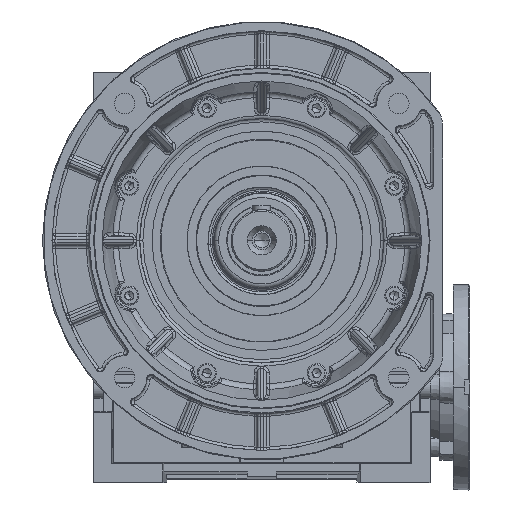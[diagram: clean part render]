
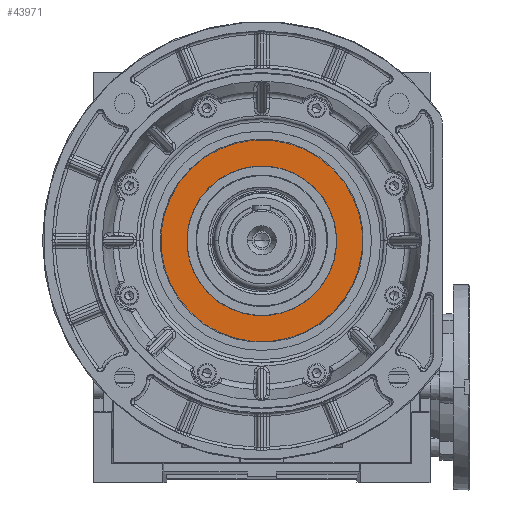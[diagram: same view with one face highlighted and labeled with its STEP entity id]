
A CAD part, top view. The second image highlights one B-rep face of the part: STEP entity #43971.
In plain terms, the highlighted planar face has unit normal (0, 0, 1).
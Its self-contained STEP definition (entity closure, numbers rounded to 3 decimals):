
#2464 = EDGE_CURVE ( 'NONE', #49381, #90740, #29130, .T. ) ;
#3754 = AXIS2_PLACEMENT_3D ( 'NONE', #36246, #16093, #80477 ) ;
#4025 = DIRECTION ( 'NONE',  ( 0., 0., -1. ) ) ;
#4096 = ORIENTED_EDGE ( 'NONE', *, *, #5063, .T. ) ;
#4497 = DIRECTION ( 'NONE',  ( -0.707, -0.707, 0. ) ) ;
#5063 = EDGE_CURVE ( 'NONE', #90740, #49381, #19131, .T. ) ;
#7364 = EDGE_LOOP ( 'NONE', ( #4096, #58354 ) ) ;
#7693 = DIRECTION ( 'NONE',  ( -0.707, -0.707, 0. ) ) ;
#14535 = FACE_BOUND ( 'NONE', #7364, .T. ) ;
#15460 = FACE_OUTER_BOUND ( 'NONE', #64906, .T. ) ;
#16093 = DIRECTION ( 'NONE',  ( 0., 0., -1. ) ) ;
#16637 = ORIENTED_EDGE ( 'NONE', *, *, #81955, .F. ) ;
#17790 = DIRECTION ( 'NONE',  ( -0.707, -0.707, 0. ) ) ;
#19131 = CIRCLE ( 'NONE', #31071, 51.175 ) ;
#19148 = CARTESIAN_POINT ( 'NONE',  ( 36.186, 36.186, 65. ) ) ;
#20130 = CARTESIAN_POINT ( 'NONE',  ( -36.186, -36.186, 65. ) ) ;
#29130 = CIRCLE ( 'NONE', #46986, 51.175 ) ;
#31071 = AXIS2_PLACEMENT_3D ( 'NONE', #33703, #67283, #17790 ) ;
#33703 = CARTESIAN_POINT ( 'NONE',  ( 0., 0., 65. ) ) ;
#36246 = CARTESIAN_POINT ( 'NONE',  ( 0., 0., 65. ) ) ;
#36517 = CARTESIAN_POINT ( 'NONE',  ( -48.79, 48.79, 65. ) ) ;
#41516 = VERTEX_POINT ( 'NONE', #83421 ) ;
#43291 = CARTESIAN_POINT ( 'NONE',  ( -48.79, -48.79, 65. ) ) ;
#43971 = ADVANCED_FACE ( 'NONE', ( #14535, #15460 ), #56569, .T. ) ;
#46986 = AXIS2_PLACEMENT_3D ( 'NONE', #65132, #66036, #7693 ) ;
#49085 = AXIS2_PLACEMENT_3D ( 'NONE', #36517, #86794, #91974 ) ;
#49381 = VERTEX_POINT ( 'NONE', #19148 ) ;
#56569 = PLANE ( 'NONE',  #49085 ) ;
#58354 = ORIENTED_EDGE ( 'NONE', *, *, #2464, .T. ) ;
#60168 = CIRCLE ( 'NONE', #83961, 69. ) ;
#64632 = EDGE_CURVE ( 'NONE', #75840, #41516, #85679, .T. ) ;
#64906 = EDGE_LOOP ( 'NONE', ( #16637, #77087 ) ) ;
#65132 = CARTESIAN_POINT ( 'NONE',  ( 0., 0., 65. ) ) ;
#66036 = DIRECTION ( 'NONE',  ( 0., 0., -1. ) ) ;
#67283 = DIRECTION ( 'NONE',  ( 0., 0., -1. ) ) ;
#68001 = CARTESIAN_POINT ( 'NONE',  ( 0., 0., 65. ) ) ;
#75840 = VERTEX_POINT ( 'NONE', #43291 ) ;
#77087 = ORIENTED_EDGE ( 'NONE', *, *, #64632, .F. ) ;
#80477 = DIRECTION ( 'NONE',  ( -0.707, -0.707, 0. ) ) ;
#81955 = EDGE_CURVE ( 'NONE', #41516, #75840, #60168, .T. ) ;
#83421 = CARTESIAN_POINT ( 'NONE',  ( 48.79, 48.79, 65. ) ) ;
#83961 = AXIS2_PLACEMENT_3D ( 'NONE', #68001, #4025, #4497 ) ;
#85679 = CIRCLE ( 'NONE', #3754, 69. ) ;
#86794 = DIRECTION ( 'NONE',  ( 0., 0., 1. ) ) ;
#90740 = VERTEX_POINT ( 'NONE', #20130 ) ;
#91974 = DIRECTION ( 'NONE',  ( 0.707, 0.707, 0. ) ) ;
